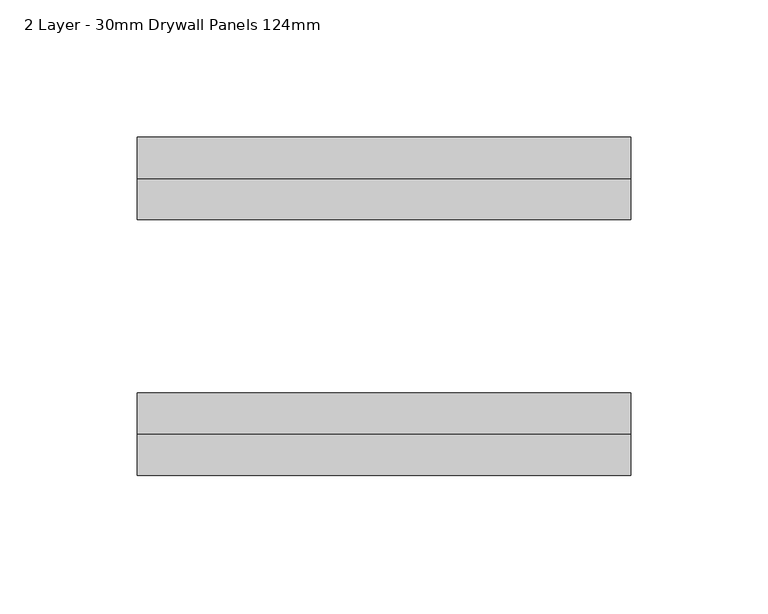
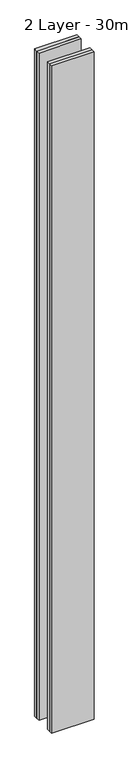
"""IFC4 building model written with IfcOpenShell, lengths in millimetres: plate geometry, 4 LayerS - Drywall Panels : 2 Layer - 30mm Drywall Panels 124mm."""

from ifc_helpers import new_model, si_unit, origin, origin_with_axes, place, context, project, spatial, polyline, outline, extrude, source, transform, mapped, element, save


def plate_2_layer_30mm_drywall_panels_124mm_3bb38d6b(model_context):
    return source(origin(), model_context, "Body", "SweptSolid", [
        extrude(outline(polyline([(89.6999998, 46.5), (-89.6999998, 46.5), (-89.6999998, 61.5), (89.6999998, 61.5), (89.6999998, 46.5)])), origin_with_axes(), (0.0, 0.0, 1.0), 2979.4),
        extrude(outline(polyline([(89.6999998, -46.5), (-89.6999998, -46.5), (-89.6999998, -31.5), (89.6999998, -31.5), (89.6999998, -46.5)])), origin_with_axes(), (0.0, 0.0, 1.0), 2979.4),
        extrude(outline(polyline([(89.6999998, 31.5), (-89.6999998, 31.5), (-89.6999998, 46.5), (89.6999998, 46.5), (89.6999998, 31.5)])), origin_with_axes(), (0.0, 0.0, 1.0), 2979.4),
        extrude(outline(polyline([(89.6999998, -46.5), (89.6999998, -61.5), (-89.6999998, -61.5), (-89.6999998, -46.5), (89.6999998, -46.5)])), origin_with_axes(), (0.0, 0.0, 1.0), 2979.4),
    ])


if __name__ == "__main__":
    model = new_model("IFC4")
    model_context = context("Model", 3, world=origin())
    ifc_project = project(units=[si_unit("LENGTHUNIT", "METRE", prefix="MILLI")], contexts=[model_context])
    site = spatial("IfcSite", under=ifc_project)
    building = spatial("IfcBuilding", under=site)
    placement = place(None, origin())
    plate_2_layer_30mm_drywall_panels_124mm_shape = plate_2_layer_30mm_drywall_panels_124mm_3bb38d6b(model_context)
    element("IfcPlate", 1, ObjectType="4 LayerS - Drywall Panels : 2 Layer - 30mm Drywall Panels 124mm", at=placement, inside=building, context=model_context, shape_type="MappedRepresentation", body=[
        mapped(plate_2_layer_30mm_drywall_panels_124mm_shape, transform((0.0, 0.0, 0.0), x_axis=(1.0, 0.0, 0.0), y_axis=(0.0, 1.0, 0.0), z_axis=(0.0, 0.0, 1.0))),
    ])
    save(model, "model.ifc")
